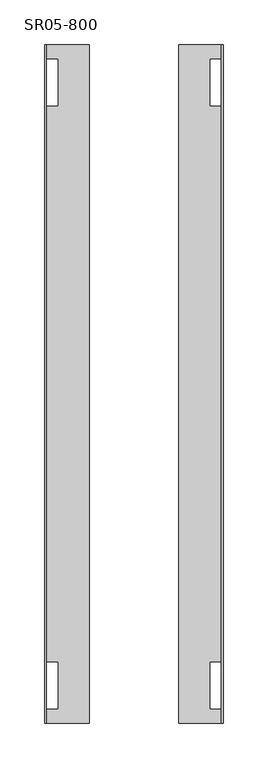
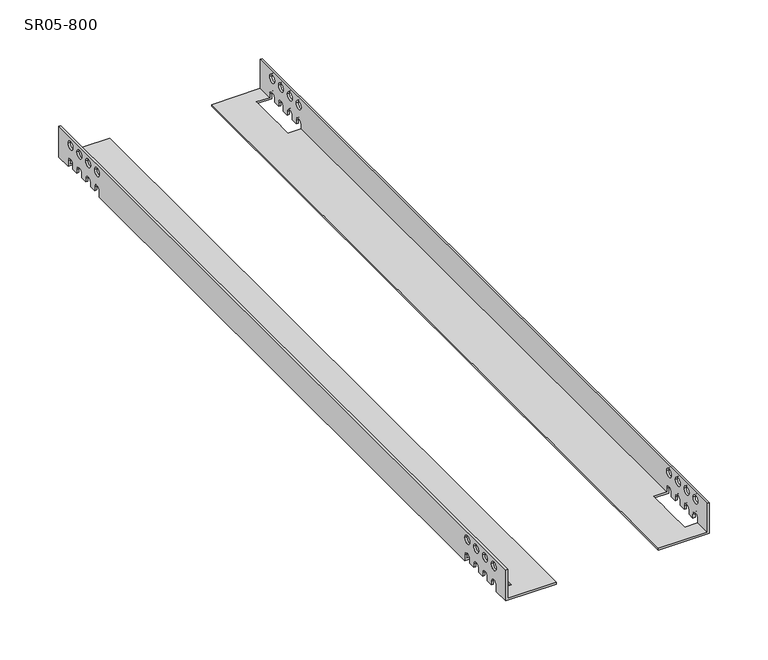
"""IFC4 building model written with IfcOpenShell, lengths in millimetres: proxy geometry, Уголки : SR05-800."""

from ifc_helpers import new_model, si_unit, frame, origin, place, context, project, spatial, polyline, circle_curve, source, transform, mapped, element, save
from ifc_brep_helpers import plane_surface, revolved_surface, advanced_brep


def sr05_800_6b87222d(model_context):
    return source(origin(), model_context, "Body", "AdvancedBrep", [
        advanced_brep(
        [(-98.0, -380.0, 32.0), (-100.0, -380.0, 32.0), (-100.0, -380.0, 0.0), (-50.0, -380.0, 0.0), (-50.0, -380.0, 2.0), (-98.0, -380.0, 2.0), (-98.0, 380.0, 32.0), (-98.0, 380.0, 2.0), (-50.0, 380.0, 2.0), (-50.0, 380.0, 0.0), (-100.0, 380.0, 0.0), (-100.0, 380.0, 32.0), (-100.0, 364.1733431, 0.0), (-100.0, 364.1733431, 5.925008), (-100.0, 355.8266569, 5.925008), (-100.0, 355.8266569, 2.0), (-100.0, 349.1733431, 2.0), (-100.0, 349.1733431, 5.925008), (-100.0, 340.8266569, 5.925008), (-100.0, 340.8266569, 2.0), (-100.0, 334.1733431, 2.0), (-100.0, 334.1733431, 5.925008), (-100.0, 325.8266569, 5.925008), (-100.0, 325.8266569, 2.0), (-100.0, 319.1733431, 2.0), (-100.0, 319.1733431, 5.925008), (-100.0, 310.8266569, 5.925008), (-100.0, 310.8266569, 0.0), (-100.0, -310.8266569, 0.0), (-100.0, -310.8266569, 5.925008), (-100.0, -319.1733431, 5.925008), (-100.0, -319.1733431, 2.0), (-100.0, -325.8266569, 2.0), (-100.0, -325.8266569, 5.925008), (-100.0, -334.1733431, 5.925008), (-100.0, -334.1733431, 2.0), (-100.0, -340.8266569, 2.0), (-100.0, -340.8266569, 5.925008), (-100.0, -349.1733431, 5.925008), (-100.0, -349.1733431, 2.0), (-100.0, -355.8266569, 2.0), (-100.0, -355.8266569, 5.925008), (-100.0, -364.1733431, 5.925008), (-100.0, -364.1733431, 0.0), (-100.0, -349.1733431, 24.0), (-100.0, -340.8266569, 24.0), (-100.0, -364.1733431, 24.0), (-100.0, -355.8266569, 24.0), (-100.0, -334.1733431, 24.0), (-100.0, -325.8266569, 24.0), (-100.0, -319.1733431, 24.0), (-100.0, -310.8266569, 24.0), (-100.0, 340.8266569, 24.0), (-100.0, 349.1733431, 24.0), (-100.0, 355.8266569, 24.0), (-100.0, 364.1733431, 24.0), (-100.0, 325.8266569, 24.0), (-100.0, 334.1733431, 24.0), (-100.0, 310.8266569, 24.0), (-100.0, 319.1733431, 24.0), (-85.0, -364.1733431, 0.0), (-85.0, -310.8266569, 0.0), (-85.0, 310.8266569, 0.0), (-85.0, 364.1733431, 0.0), (-98.0, 364.1733431, 2.0), (-85.0, 364.1733431, 2.0), (-85.0, 355.8266569, 2.0), (-85.0, 349.1733431, 2.0), (-85.0, 340.8266569, 2.0), (-85.0, 334.1733431, 2.0), (-85.0, 325.8266569, 2.0), (-85.0, 319.1733431, 2.0), (-85.0, 310.8266569, 2.0), (-98.0, 310.8266569, 2.0), (-98.0, -310.8266569, 2.0), (-85.0, -310.8266569, 2.0), (-85.0, -319.1733431, 2.0), (-85.0, -325.8266569, 2.0), (-85.0, -334.1733431, 2.0), (-85.0, -340.8266569, 2.0), (-85.0, -349.1733431, 2.0), (-85.0, -355.8266569, 2.0), (-85.0, -364.1733431, 2.0), (-98.0, -364.1733431, 2.0), (-98.0, -364.1733431, 5.925008), (-98.0, -355.8266569, 5.925008), (-98.0, -355.8266569, 2.0), (-98.0, -349.1733431, 2.0), (-98.0, -349.1733431, 5.925008), (-98.0, -340.8266569, 5.925008), (-98.0, -340.8266569, 2.0), (-98.0, -334.1733431, 2.0), (-98.0, -334.1733431, 5.925008), (-98.0, -325.8266569, 5.925008), (-98.0, -325.8266569, 2.0), (-98.0, -319.1733431, 2.0), (-98.0, -319.1733431, 5.925008), (-98.0, -310.8266569, 5.925008), (-98.0, 310.8266569, 5.925008), (-98.0, 319.1733431, 5.925008), (-98.0, 319.1733431, 2.0), (-98.0, 325.8266569, 2.0), (-98.0, 325.8266569, 5.925008), (-98.0, 334.1733431, 5.925008), (-98.0, 334.1733431, 2.0), (-98.0, 340.8266569, 2.0), (-98.0, 340.8266569, 5.925008), (-98.0, 349.1733431, 5.925008), (-98.0, 349.1733431, 2.0), (-98.0, 355.8266569, 2.0), (-98.0, 355.8266569, 5.925008), (-98.0, 364.1733431, 5.925008), (-98.0, -340.8266569, 24.0), (-98.0, -349.1733431, 24.0), (-98.0, -355.8266569, 24.0), (-98.0, -364.1733431, 24.0), (-98.0, -325.8266569, 24.0), (-98.0, -334.1733431, 24.0), (-98.0, -310.8266569, 24.0), (-98.0, -319.1733431, 24.0), (-98.0, 349.1733431, 24.0), (-98.0, 340.8266569, 24.0), (-98.0, 364.1733431, 24.0), (-98.0, 355.8266569, 24.0), (-98.0, 334.1733431, 24.0), (-98.0, 325.8266569, 24.0), (-98.0, 319.1733431, 24.0), (-98.0, 310.8266569, 24.0)],
        [
            (0, 1),
            (1, 2),
            (2, 3),
            (3, 4),
            (4, 5),
            (5, 0),
            (6, 7),
            (7, 8),
            (8, 9),
            (9, 10),
            (10, 11),
            (11, 6),
            (0, 6),
            (11, 1),
            (10, 12),
            (12, 13),
            (13, 14, circle_curve(frame((-100.0, 360.0, 5.925008), z_axis=(1.0, 0.0, 0.0), x_axis=(0.0, -1.0, 0.0)), 4.1733431)),
            (14, 15),
            (15, 16),
            (16, 17),
            (17, 18, circle_curve(frame((-100.0, 345.0, 5.925008), z_axis=(1.0, 0.0, 0.0), x_axis=(0.0, -1.0, 0.0)), 4.1733431)),
            (18, 19),
            (19, 20),
            (20, 21),
            (21, 22, circle_curve(frame((-100.0, 330.0, 5.925008), z_axis=(1.0, 0.0, 0.0), x_axis=(0.0, -1.0, 0.0)), 4.1733431)),
            (22, 23),
            (23, 24),
            (24, 25),
            (25, 26, circle_curve(frame((-100.0, 315.0, 5.925008), z_axis=(1.0, 0.0, 0.0), x_axis=(0.0, -1.0, 0.0)), 4.1733431)),
            (26, 27),
            (27, 28),
            (28, 29),
            (29, 30, circle_curve(frame((-100.0, -315.0, 5.925008), z_axis=(1.0, 0.0, 0.0), x_axis=(0.0, -1.0, 0.0)), 4.1733431)),
            (30, 31),
            (31, 32),
            (32, 33),
            (33, 34, circle_curve(frame((-100.0, -330.0, 5.925008), z_axis=(1.0, 0.0, 0.0), x_axis=(0.0, -1.0, 0.0)), 4.1733431)),
            (34, 35),
            (35, 36),
            (36, 37),
            (37, 38, circle_curve(frame((-100.0, -345.0, 5.925008), z_axis=(1.0, 0.0, 0.0), x_axis=(0.0, -1.0, 0.0)), 4.1733431)),
            (38, 39),
            (39, 40),
            (40, 41),
            (41, 42, circle_curve(frame((-100.0, -360.0, 5.925008), z_axis=(1.0, 0.0, 0.0), x_axis=(0.0, -1.0, 0.0)), 4.1733431)),
            (42, 43),
            (43, 2),
            (44, 45, circle_curve(frame((-100.0, -345.0, 24.0), z_axis=(1.0, 0.0, 0.0), x_axis=(0.0, -1.0, 0.0)), 4.1733431)),
            (45, 44, circle_curve(frame((-100.0, -345.0, 24.0), z_axis=(1.0, 0.0, 0.0), x_axis=(0.0, -1.0, 0.0)), 4.1733431)),
            (46, 47, circle_curve(frame((-100.0, -360.0, 24.0), z_axis=(1.0, 0.0, 0.0), x_axis=(0.0, -1.0, 0.0)), 4.1733431)),
            (47, 46, circle_curve(frame((-100.0, -360.0, 24.0), z_axis=(1.0, 0.0, 0.0), x_axis=(0.0, -1.0, 0.0)), 4.1733431)),
            (48, 49, circle_curve(frame((-100.0, -330.0, 24.0), z_axis=(1.0, 0.0, 0.0), x_axis=(0.0, -1.0, 0.0)), 4.1733431)),
            (49, 48, circle_curve(frame((-100.0, -330.0, 24.0), z_axis=(1.0, 0.0, 0.0), x_axis=(0.0, -1.0, 0.0)), 4.1733431)),
            (50, 51, circle_curve(frame((-100.0, -315.0, 24.0), z_axis=(1.0, 0.0, 0.0), x_axis=(0.0, -1.0, 0.0)), 4.1733431)),
            (51, 50, circle_curve(frame((-100.0, -315.0, 24.0), z_axis=(1.0, 0.0, 0.0), x_axis=(0.0, -1.0, 0.0)), 4.1733431)),
            (52, 53, circle_curve(frame((-100.0, 345.0, 24.0), z_axis=(1.0, 0.0, 0.0), x_axis=(0.0, -1.0, 0.0)), 4.1733431)),
            (53, 52, circle_curve(frame((-100.0, 345.0, 24.0), z_axis=(1.0, 0.0, 0.0), x_axis=(0.0, -1.0, 0.0)), 4.1733431)),
            (54, 55, circle_curve(frame((-100.0, 360.0, 24.0), z_axis=(1.0, 0.0, 0.0), x_axis=(0.0, -1.0, 0.0)), 4.1733431)),
            (55, 54, circle_curve(frame((-100.0, 360.0, 24.0), z_axis=(1.0, 0.0, 0.0), x_axis=(0.0, -1.0, 0.0)), 4.1733431)),
            (56, 57, circle_curve(frame((-100.0, 330.0, 24.0), z_axis=(1.0, 0.0, 0.0), x_axis=(0.0, -1.0, 0.0)), 4.1733431)),
            (57, 56, circle_curve(frame((-100.0, 330.0, 24.0), z_axis=(1.0, 0.0, 0.0), x_axis=(0.0, -1.0, 0.0)), 4.1733431)),
            (58, 59, circle_curve(frame((-100.0, 315.0, 24.0), z_axis=(1.0, 0.0, 0.0), x_axis=(0.0, -1.0, 0.0)), 4.1733431)),
            (59, 58, circle_curve(frame((-100.0, 315.0, 24.0), z_axis=(1.0, 0.0, 0.0), x_axis=(0.0, -1.0, 0.0)), 4.1733431)),
            (43, 60),
            (60, 61),
            (61, 28),
            (27, 62),
            (62, 63),
            (63, 12),
            (9, 3),
            (8, 4),
            (7, 64),
            (64, 65),
            (65, 66),
            (66, 67),
            (67, 68),
            (68, 69),
            (69, 70),
            (70, 71),
            (71, 72),
            (72, 73),
            (73, 74),
            (74, 75),
            (75, 76),
            (76, 77),
            (77, 78),
            (78, 79),
            (79, 80),
            (80, 81),
            (81, 82),
            (82, 83),
            (83, 5),
            (83, 84),
            (84, 85, circle_curve(frame((-98.0, -360.0, 5.925008), z_axis=(-1.0, 0.0, 0.0), x_axis=(0.0, -1.0, 0.0)), 4.1733431)),
            (85, 86),
            (86, 87),
            (87, 88),
            (88, 89, circle_curve(frame((-98.0, -345.0, 5.925008), z_axis=(-1.0, 0.0, 0.0), x_axis=(0.0, -1.0, 0.0)), 4.1733431)),
            (89, 90),
            (90, 91),
            (91, 92),
            (92, 93, circle_curve(frame((-98.0, -330.0, 5.925008), z_axis=(-1.0, 0.0, 0.0), x_axis=(0.0, -1.0, 0.0)), 4.1733431)),
            (93, 94),
            (94, 95),
            (95, 96),
            (96, 97, circle_curve(frame((-98.0, -315.0, 5.925008), z_axis=(-1.0, 0.0, 0.0), x_axis=(0.0, -1.0, 0.0)), 4.1733431)),
            (97, 74),
            (73, 98),
            (98, 99, circle_curve(frame((-98.0, 315.0, 5.925008), z_axis=(-1.0, 0.0, 0.0), x_axis=(0.0, -1.0, 0.0)), 4.1733431)),
            (99, 100),
            (100, 101),
            (101, 102),
            (102, 103, circle_curve(frame((-98.0, 330.0, 5.925008), z_axis=(-1.0, 0.0, 0.0), x_axis=(0.0, -1.0, 0.0)), 4.1733431)),
            (103, 104),
            (104, 105),
            (105, 106),
            (106, 107, circle_curve(frame((-98.0, 345.0, 5.925008), z_axis=(-1.0, 0.0, 0.0), x_axis=(0.0, -1.0, 0.0)), 4.1733431)),
            (107, 108),
            (108, 109),
            (109, 110),
            (110, 111, circle_curve(frame((-98.0, 360.0, 5.925008), z_axis=(-1.0, 0.0, 0.0), x_axis=(0.0, -1.0, 0.0)), 4.1733431)),
            (111, 64),
            (112, 113, circle_curve(frame((-98.0, -345.0, 24.0), z_axis=(-1.0, 0.0, 0.0), x_axis=(0.0, -1.0, 0.0)), 4.1733431)),
            (113, 112, circle_curve(frame((-98.0, -345.0, 24.0), z_axis=(-1.0, 0.0, 0.0), x_axis=(0.0, -1.0, 0.0)), 4.1733431)),
            (114, 115, circle_curve(frame((-98.0, -360.0, 24.0), z_axis=(-1.0, 0.0, 0.0), x_axis=(0.0, -1.0, 0.0)), 4.1733431)),
            (115, 114, circle_curve(frame((-98.0, -360.0, 24.0), z_axis=(-1.0, 0.0, 0.0), x_axis=(0.0, -1.0, 0.0)), 4.1733431)),
            (116, 117, circle_curve(frame((-98.0, -330.0, 24.0), z_axis=(-1.0, 0.0, 0.0), x_axis=(0.0, -1.0, 0.0)), 4.1733431)),
            (117, 116, circle_curve(frame((-98.0, -330.0, 24.0), z_axis=(-1.0, 0.0, 0.0), x_axis=(0.0, -1.0, 0.0)), 4.1733431)),
            (118, 119, circle_curve(frame((-98.0, -315.0, 24.0), z_axis=(-1.0, 0.0, 0.0), x_axis=(0.0, -1.0, 0.0)), 4.1733431)),
            (119, 118, circle_curve(frame((-98.0, -315.0, 24.0), z_axis=(-1.0, 0.0, 0.0), x_axis=(0.0, -1.0, 0.0)), 4.1733431)),
            (120, 121, circle_curve(frame((-98.0, 345.0, 24.0), z_axis=(-1.0, 0.0, 0.0), x_axis=(0.0, -1.0, 0.0)), 4.1733431)),
            (121, 120, circle_curve(frame((-98.0, 345.0, 24.0), z_axis=(-1.0, 0.0, 0.0), x_axis=(0.0, -1.0, 0.0)), 4.1733431)),
            (122, 123, circle_curve(frame((-98.0, 360.0, 24.0), z_axis=(-1.0, 0.0, 0.0), x_axis=(0.0, -1.0, 0.0)), 4.1733431)),
            (123, 122, circle_curve(frame((-98.0, 360.0, 24.0), z_axis=(-1.0, 0.0, 0.0), x_axis=(0.0, -1.0, 0.0)), 4.1733431)),
            (124, 125, circle_curve(frame((-98.0, 330.0, 24.0), z_axis=(-1.0, 0.0, 0.0), x_axis=(0.0, -1.0, 0.0)), 4.1733431)),
            (125, 124, circle_curve(frame((-98.0, 330.0, 24.0), z_axis=(-1.0, 0.0, 0.0), x_axis=(0.0, -1.0, 0.0)), 4.1733431)),
            (126, 127, circle_curve(frame((-98.0, 315.0, 24.0), z_axis=(-1.0, 0.0, 0.0), x_axis=(0.0, -1.0, 0.0)), 4.1733431)),
            (127, 126, circle_curve(frame((-98.0, 315.0, 24.0), z_axis=(-1.0, 0.0, 0.0), x_axis=(0.0, -1.0, 0.0)), 4.1733431)),
            (75, 61),
            (60, 82),
            (65, 63),
            (62, 72),
            (112, 45),
            (44, 113),
            (114, 47),
            (46, 115),
            (116, 49),
            (48, 117),
            (118, 51),
            (50, 119),
            (120, 53),
            (52, 121),
            (122, 55),
            (54, 123),
            (124, 57),
            (56, 125),
            (126, 59),
            (58, 127),
            (95, 31),
            (30, 96),
            (29, 97),
            (91, 35),
            (34, 92),
            (33, 93),
            (32, 94),
            (87, 39),
            (38, 88),
            (37, 89),
            (36, 90),
            (42, 84),
            (41, 85),
            (40, 86),
            (23, 101),
            (100, 24),
            (22, 102),
            (21, 103),
            (20, 104),
            (19, 105),
            (18, 106),
            (17, 107),
            (16, 108),
            (15, 109),
            (14, 110),
            (13, 111),
            (26, 98),
            (25, 99),
        ],
        [
            plane_surface(frame((-100.0, -380.0, 32.0), z_axis=(0.0, -1.0, 0.0), x_axis=(-1.0, 0.0, 0.0))),
            plane_surface(frame((-100.0, 380.0, 32.0), z_axis=(0.0, 1.0, 0.0), x_axis=(1.0, 0.0, 0.0))),
            plane_surface(frame((-98.0, -380.0, 32.0), z_axis=(0.0, 0.0, 1.0), x_axis=(0.0, 1.0, 0.0))),
            plane_surface(frame((-100.0, -380.0, 32.0), z_axis=(-1.0, 0.0, 0.0), x_axis=(0.0, 1.0, 0.0))),
            plane_surface(frame((-100.0, -380.0, 0.0), z_axis=(0.0, 0.0, -1.0), x_axis=(0.0, 1.0, 0.0))),
            plane_surface(frame((-50.0, -380.0, 0.0), z_axis=(1.0, 0.0, 0.0), x_axis=(0.0, 1.0, 0.0))),
            plane_surface(frame((-50.0, -380.0, 2.0), z_axis=(0.0, 0.0, 1.0), x_axis=(0.0, 1.0, 0.0))),
            plane_surface(frame((-98.0, -380.0, 2.0), z_axis=(1.0, 0.0, 0.0), x_axis=(0.0, 1.0, 0.0))),
            plane_surface(frame((-85.0, -349.1733431, 24.0), z_axis=(-1.0, 0.0, 0.0), x_axis=(0.0, 0.0, -1.0))),
            revolved_surface(polyline([(-100.0, -349.1733431, 24.0), (-98.0, -349.1733431, 24.0)]), (-85.0, -345.0, 24.0), (-1.0, 0.0, 0.0)),
            revolved_surface(polyline([(-100.0, -364.1733431, 24.0), (-98.0, -364.1733431, 24.0)]), (-100.0, -360.0, 24.0), (-1.0, 0.0, 0.0)),
            revolved_surface(polyline([(-100.0, -334.1733431, 24.0), (-98.0, -334.1733431, 24.0)]), (-100.0, -330.0, 24.0), (-1.0, 0.0, 0.0)),
            revolved_surface(polyline([(-100.0, -319.1733431, 24.0), (-98.0, -319.1733431, 24.0)]), (-100.0, -315.0, 24.0), (-1.0, 0.0, 0.0)),
            revolved_surface(polyline([(-100.0, 340.8266569, 24.0), (-98.0, 340.8266569, 24.0)]), (-100.0, 345.0, 24.0), (-1.0, 0.0, 0.0)),
            revolved_surface(polyline([(-100.0, 355.8266569, 24.0), (-98.0, 355.8266569, 24.0)]), (-100.0, 360.0, 24.0), (-1.0, 0.0, 0.0)),
            revolved_surface(polyline([(-100.0, 325.8266569, 24.0), (-98.0, 325.8266569, 24.0)]), (-100.0, 330.0, 24.0), (-1.0, 0.0, 0.0)),
            revolved_surface(polyline([(-100.0, 310.8266569, 24.0), (-98.0, 310.8266569, 24.0)]), (-100.0, 315.0, 24.0), (-1.0, 0.0, 0.0)),
            plane_surface(frame((-100.0, -319.1733431, 2.0), z_axis=(0.0, 1.0, 0.0), x_axis=(1.0, 0.0, 0.0))),
            revolved_surface(polyline([(-100.0, -319.1733431, 5.925008), (-98.0, -319.1733431, 5.925008)]), (-100.0, -315.0, 5.925008), (-1.0, 0.0, 0.0)),
            plane_surface(frame((-100.0, -310.8266569, 5.925008), z_axis=(0.0, -1.0, 0.0), x_axis=(1.0, 0.0, 0.0))),
            plane_surface(frame((-100.0, -334.1733431, 2.0), z_axis=(0.0, 1.0, 0.0), x_axis=(1.0, 0.0, 0.0))),
            revolved_surface(polyline([(-100.0, -334.1733431, 5.925008), (-98.0, -334.1733431, 5.925008)]), (-100.0, -330.0, 5.925008), (-1.0, 0.0, 0.0)),
            plane_surface(frame((-100.0, -325.8266569, 5.925008), z_axis=(0.0, -1.0, 0.0), x_axis=(1.0, 0.0, 0.0))),
            plane_surface(frame((-100.0, -325.8266569, 2.0), z_axis=(0.0, 0.0, -1.0), x_axis=(1.0, 0.0, 0.0))),
            plane_surface(frame((-100.0, -349.1733431, 2.0), z_axis=(0.0, 1.0, 8.742237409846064e-12), x_axis=(1.0, 0.0, 0.0))),
            revolved_surface(polyline([(-100.0, -349.1733431, 5.925008), (-98.0, -349.1733431, 5.925008)]), (-100.0, -345.0, 5.925008), (-1.0, 0.0, 0.0)),
            plane_surface(frame((-100.0, -340.8266569, 5.925008), z_axis=(0.0, -1.0, 0.0), x_axis=(1.0, 0.0, 0.0))),
            plane_surface(frame((-100.0, -340.8266569, 2.0), z_axis=(0.0, 0.0, -1.0), x_axis=(1.0, 0.0, 0.0))),
            plane_surface(frame((-100.0, -364.1733431, 0.0), z_axis=(0.0, 1.0, 0.0), x_axis=(1.0, 0.0, 0.0))),
            revolved_surface(polyline([(-100.0, -364.1733431, 5.925008), (-98.0, -364.1733431, 5.925008)]), (-100.0, -360.0, 5.925008), (-1.0, 0.0, 0.0)),
            plane_surface(frame((-100.0, -355.8266569, 5.925008), z_axis=(0.0, -1.0, 0.0), x_axis=(1.0, 0.0, 0.0))),
            plane_surface(frame((-100.0, -355.8266569, 2.0), z_axis=(0.0, 0.0, -1.0), x_axis=(1.0, 0.0, 0.0))),
            plane_surface(frame((-100.0, 319.1733431, 2.0), z_axis=(0.0, 0.0, -1.0), x_axis=(1.0, 0.0, 0.0))),
            plane_surface(frame((-100.0, 325.8266569, 2.0), z_axis=(0.0, 1.0, 0.0), x_axis=(1.0, 0.0, 0.0))),
            revolved_surface(polyline([(-100.0, 325.8266569, 5.925008), (-98.0, 325.8266569, 5.925008)]), (-100.0, 330.0, 5.925008), (-1.0, 0.0, 0.0)),
            plane_surface(frame((-100.0, 334.1733431, 5.925008), z_axis=(0.0, -1.0, 0.0), x_axis=(1.0, 0.0, 0.0))),
            plane_surface(frame((-100.0, 334.1733431, 2.0), z_axis=(0.0, 0.0, -1.0), x_axis=(1.0, 0.0, 0.0))),
            plane_surface(frame((-100.0, 340.8266569, 2.0), z_axis=(0.0, 1.0, 0.0), x_axis=(1.0, 0.0, 0.0))),
            revolved_surface(polyline([(-100.0, 340.8266569, 5.925008), (-98.0, 340.8266569, 5.925008)]), (-100.0, 345.0, 5.925008), (-1.0, 0.0, 0.0)),
            plane_surface(frame((-100.0, 349.1733431, 5.925008), z_axis=(0.0, -1.0, -4.241795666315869e-12), x_axis=(1.0, 0.0, 0.0))),
            plane_surface(frame((-100.0, 349.1733431, 2.0), z_axis=(0.0, 0.0, -1.0), x_axis=(1.0, 0.0, 0.0))),
            plane_surface(frame((-100.0, 355.8266569, 2.0), z_axis=(0.0, 1.0, 0.0), x_axis=(1.0, 0.0, 0.0))),
            revolved_surface(polyline([(-100.0, 355.8266569, 5.925008), (-98.0, 355.8266569, 5.925008)]), (-100.0, 360.0, 5.925008), (-1.0, 0.0, 0.0)),
            plane_surface(frame((-100.0, 364.1733431, 5.925008), z_axis=(0.0, -1.0, 0.0), x_axis=(1.0, 0.0, 0.0))),
            plane_surface(frame((-100.0, 310.8266569, 0.0), z_axis=(0.0, 1.0, 0.0), x_axis=(1.0, 0.0, 0.0))),
            revolved_surface(polyline([(-100.0, 310.8266569, 5.925008), (-98.0, 310.8266569, 5.925008)]), (-100.0, 315.0, 5.925008), (-1.0, 0.0, 0.0)),
            plane_surface(frame((-100.0, 319.1733431, 5.925008), z_axis=(0.0, -1.0, 0.0), x_axis=(1.0, 0.0, 0.0))),
        ],
        [
            (0, [[1, 2, 3, 4, 5, 6]]),
            (1, [[7, 8, 9, 10, 11, 12]]),
            (2, [[-1, 13, -12, 14]]),
            (3, [[-2, -14, -11, 15, 16, 17, 18, 19, 20, 21, 22, 23, 24, 25, 26, 27, 28, 29, 30, 31, 32, 33, 34, 35, 36, 37, 38, 39, 40, 41, 42, 43, 44, 45, 46, 47], [48, 49], [50, 51], [52, 53], [54, 55], [56, 57], [58, 59], [60, 61], [62, 63]]),
            (4, [[-3, -47, 64, 65, 66, -31, 67, 68, 69, -15, -10, 70]]),
            (5, [[-4, -70, -9, 71]]),
            (6, [[-5, -71, -8, 72, 73, 74, 75, 76, 77, 78, 79, 80, 81, 82, 83, 84, 85, 86, 87, 88, 89, 90, 91, 92]]),
            (7, [[-6, -92, 93, 94, 95, 96, 97, 98, 99, 100, 101, 102, 103, 104, 105, 106, 107, -82, 108, 109, 110, 111, 112, 113, 114, 115, 116, 117, 118, 119, 120, 121, 122, -72, -7, -13], [123, 124], [125, 126], [127, 128], [129, 130], [131, 132], [133, 134], [135, 136], [137, 138]]),
            (8, [[139, -65, 140, -90, -89, -88, -87, -86, -85, -84]]),
            (8, [[141, -68, 142, -80, -79, -78, -77, -76, -75, -74]]),
            (9, [[143, -48, 144, -123]]),
            (9, [[-143, -124, -144, -49]]),
            (10, [[145, -50, 146, -125]]),
            (10, [[-145, -126, -146, -51]]),
            (11, [[147, -52, 148, -127]]),
            (11, [[-147, -128, -148, -53]]),
            (12, [[149, -54, 150, -129]]),
            (12, [[-149, -130, -150, -55]]),
            (13, [[151, -56, 152, -131]]),
            (13, [[-151, -132, -152, -57]]),
            (14, [[153, -58, 154, -133]]),
            (14, [[-153, -134, -154, -59]]),
            (15, [[155, -60, 156, -135]]),
            (15, [[-155, -136, -156, -61]]),
            (16, [[157, -62, 158, -137]]),
            (16, [[-157, -138, -158, -63]]),
            (17, [[159, -34, 160, -105]]),
            (18, [[-160, -33, 161, -106]]),
            (19, [[-139, -83, -107, -161, -32, -66]]),
            (20, [[162, -38, 163, -101]]),
            (21, [[-163, -37, 164, -102]]),
            (22, [[165, -103, -164, -36]]),
            (23, [[-159, -104, -165, -35]]),
            (24, [[166, -42, 167, -97]]),
            (25, [[-167, -41, 168, -98]]),
            (26, [[169, -99, -168, -40]]),
            (27, [[-162, -100, -169, -39]]),
            (28, [[-140, -64, -46, 170, -93, -91]]),
            (29, [[-170, -45, 171, -94]]),
            (30, [[172, -95, -171, -44]]),
            (31, [[-166, -96, -172, -43]]),
            (32, [[173, -111, 174, -27]]),
            (33, [[-173, -26, 175, -112]]),
            (34, [[-175, -25, 176, -113]]),
            (35, [[177, -114, -176, -24]]),
            (36, [[-177, -23, 178, -115]]),
            (37, [[-178, -22, 179, -116]]),
            (38, [[-179, -21, 180, -117]]),
            (39, [[181, -118, -180, -20]]),
            (40, [[-181, -19, 182, -119]]),
            (41, [[-182, -18, 183, -120]]),
            (42, [[-183, -17, 184, -121]]),
            (43, [[-141, -73, -122, -184, -16, -69]]),
            (44, [[-142, -67, -30, 185, -108, -81]]),
            (45, [[-185, -29, 186, -109]]),
            (46, [[-174, -110, -186, -28]]),
        ],
    ),
        advanced_brep(
        [(98.0, -380.0, 32.0), (98.0, -380.0, 2.0), (50.0, -380.0, 2.0), (50.0, -380.0, 0.0), (100.0, -380.0, 0.0), (100.0, -380.0, 32.0), (98.0, 380.0, 32.0), (100.0, 380.0, 32.0), (100.0, 380.0, 0.0), (50.0, 380.0, 0.0), (50.0, 380.0, 2.0), (98.0, 380.0, 2.0), (98.0, 364.1733431, 2.0), (98.0, 364.1733431, 5.925008), (98.0, 355.8266569, 5.925008), (98.0, 355.8266569, 2.0), (98.0, 349.1733431, 2.0), (98.0, 349.1733431, 5.925008), (98.0, 340.8266569, 5.925008), (98.0, 340.8266569, 2.0), (98.0, 334.1733431, 2.0), (98.0, 334.1733431, 5.925008), (98.0, 325.8266569, 5.925008), (98.0, 325.8266569, 2.0), (98.0, 319.1733431, 2.0), (98.0, 319.1733431, 5.925008), (98.0, 310.8266569, 5.925008), (98.0, 310.8266569, 2.0), (98.0, -310.8266569, 2.0), (98.0, -310.8266569, 5.925008), (98.0, -319.1733431, 5.925008), (98.0, -319.1733431, 2.0), (98.0, -325.8266569, 2.0), (98.0, -325.8266569, 5.925008), (98.0, -334.1733431, 5.925008), (98.0, -334.1733431, 2.0), (98.0, -340.8266569, 2.0), (98.0, -340.8266569, 5.925008), (98.0, -349.1733431, 5.925008), (98.0, -349.1733431, 2.0), (98.0, -355.8266569, 2.0), (98.0, -355.8266569, 5.925008), (98.0, -364.1733431, 5.925008), (98.0, -364.1733431, 2.0), (98.0, -349.1733431, 24.0), (98.0, -340.8266569, 24.0), (98.0, -364.1733431, 24.0), (98.0, -355.8266569, 24.0), (98.0, -334.1733431, 24.0), (98.0, -325.8266569, 24.0), (98.0, -319.1733431, 24.0), (98.0, -310.8266569, 24.0), (98.0, 340.8266569, 24.0), (98.0, 349.1733431, 24.0), (98.0, 355.8266569, 24.0), (98.0, 364.1733431, 24.0), (98.0, 325.8266569, 24.0), (98.0, 334.1733431, 24.0), (98.0, 310.8266569, 24.0), (98.0, 319.1733431, 24.0), (85.0, -364.1733431, 2.0), (85.0, -355.8266569, 2.0), (85.0, -349.1733431, 2.0), (85.0, -340.8266569, 2.0), (85.0, -334.1733431, 2.0), (85.0, -325.8266569, 2.0), (85.0, -319.1733431, 2.0), (85.0, -310.8266569, 2.0), (85.0, 310.8266569, 2.0), (85.0, 319.1733431, 2.0), (85.0, 325.8266569, 2.0), (85.0, 334.1733431, 2.0), (85.0, 340.8266569, 2.0), (85.0, 349.1733431, 2.0), (85.0, 355.8266569, 2.0), (85.0, 364.1733431, 2.0), (100.0, 364.1733431, 0.0), (85.0, 364.1733431, 0.0), (85.0, 310.8266569, 0.0), (100.0, 310.8266569, 0.0), (100.0, -310.8266569, 0.0), (85.0, -310.8266569, 0.0), (85.0, -364.1733431, 0.0), (100.0, -364.1733431, 0.0), (100.0, -364.1733431, 5.925008), (100.0, -355.8266569, 5.925008), (100.0, -355.8266569, 2.0), (100.0, -349.1733431, 2.0), (100.0, -349.1733431, 5.925008), (100.0, -340.8266569, 5.925008), (100.0, -340.8266569, 2.0), (100.0, -334.1733431, 2.0), (100.0, -334.1733431, 5.925008), (100.0, -325.8266569, 5.925008), (100.0, -325.8266569, 2.0), (100.0, -319.1733431, 2.0), (100.0, -319.1733431, 5.925008), (100.0, -310.8266569, 5.925008), (100.0, 310.8266569, 5.925008), (100.0, 319.1733431, 5.925008), (100.0, 319.1733431, 2.0), (100.0, 325.8266569, 2.0), (100.0, 325.8266569, 5.925008), (100.0, 334.1733431, 5.925008), (100.0, 334.1733431, 2.0), (100.0, 340.8266569, 2.0), (100.0, 340.8266569, 5.925008), (100.0, 349.1733431, 5.925008), (100.0, 349.1733431, 2.0), (100.0, 355.8266569, 2.0), (100.0, 355.8266569, 5.925008), (100.0, 364.1733431, 5.925008), (100.0, -340.8266569, 24.0), (100.0, -349.1733431, 24.0), (100.0, -355.8266569, 24.0), (100.0, -364.1733431, 24.0), (100.0, -325.8266569, 24.0), (100.0, -334.1733431, 24.0), (100.0, -310.8266569, 24.0), (100.0, -319.1733431, 24.0), (100.0, 349.1733431, 24.0), (100.0, 340.8266569, 24.0), (100.0, 364.1733431, 24.0), (100.0, 355.8266569, 24.0), (100.0, 334.1733431, 24.0), (100.0, 325.8266569, 24.0), (100.0, 319.1733431, 24.0), (100.0, 310.8266569, 24.0)],
        [
            (0, 1),
            (1, 2),
            (2, 3),
            (3, 4),
            (4, 5),
            (5, 0),
            (6, 7),
            (7, 8),
            (8, 9),
            (9, 10),
            (10, 11),
            (11, 6),
            (0, 6),
            (11, 12),
            (12, 13),
            (13, 14, circle_curve(frame((98.0, 360.0, 5.925008), z_axis=(1.0, 0.0, 0.0), x_axis=(0.0, -1.0, 0.0)), 4.1733431)),
            (14, 15),
            (15, 16),
            (16, 17),
            (17, 18, circle_curve(frame((98.0, 345.0, 5.925008), z_axis=(1.0, 0.0, 0.0), x_axis=(0.0, -1.0, 0.0)), 4.1733431)),
            (18, 19),
            (19, 20),
            (20, 21),
            (21, 22, circle_curve(frame((98.0, 330.0, 5.925008), z_axis=(1.0, 0.0, 0.0), x_axis=(0.0, -1.0, 0.0)), 4.1733431)),
            (22, 23),
            (23, 24),
            (24, 25),
            (25, 26, circle_curve(frame((98.0, 315.0, 5.925008), z_axis=(1.0, 0.0, 0.0), x_axis=(0.0, -1.0, 0.0)), 4.1733431)),
            (26, 27),
            (27, 28),
            (28, 29),
            (29, 30, circle_curve(frame((98.0, -315.0, 5.925008), z_axis=(1.0, 0.0, 0.0), x_axis=(0.0, -1.0, 0.0)), 4.1733431)),
            (30, 31),
            (31, 32),
            (32, 33),
            (33, 34, circle_curve(frame((98.0, -330.0, 5.925008), z_axis=(1.0, 0.0, 0.0), x_axis=(0.0, -1.0, 0.0)), 4.1733431)),
            (34, 35),
            (35, 36),
            (36, 37),
            (37, 38, circle_curve(frame((98.0, -345.0, 5.925008), z_axis=(1.0, 0.0, 0.0), x_axis=(0.0, -1.0, 0.0)), 4.1733431)),
            (38, 39),
            (39, 40),
            (40, 41),
            (41, 42, circle_curve(frame((98.0, -360.0, 5.925008), z_axis=(1.0, 0.0, 0.0), x_axis=(0.0, -1.0, 0.0)), 4.1733431)),
            (42, 43),
            (43, 1),
            (44, 45, circle_curve(frame((98.0, -345.0, 24.0), z_axis=(1.0, 0.0, 0.0), x_axis=(0.0, -1.0, 0.0)), 4.1733431)),
            (45, 44, circle_curve(frame((98.0, -345.0, 24.0), z_axis=(1.0, 0.0, 0.0), x_axis=(0.0, -1.0, 0.0)), 4.1733431)),
            (46, 47, circle_curve(frame((98.0, -360.0, 24.0), z_axis=(1.0, 0.0, 0.0), x_axis=(0.0, -1.0, 0.0)), 4.1733431)),
            (47, 46, circle_curve(frame((98.0, -360.0, 24.0), z_axis=(1.0, 0.0, 0.0), x_axis=(0.0, -1.0, 0.0)), 4.1733431)),
            (48, 49, circle_curve(frame((98.0, -330.0, 24.0), z_axis=(1.0, 0.0, 0.0), x_axis=(0.0, -1.0, 0.0)), 4.1733431)),
            (49, 48, circle_curve(frame((98.0, -330.0, 24.0), z_axis=(1.0, 0.0, 0.0), x_axis=(0.0, -1.0, 0.0)), 4.1733431)),
            (50, 51, circle_curve(frame((98.0, -315.0, 24.0), z_axis=(1.0, 0.0, 0.0), x_axis=(0.0, -1.0, 0.0)), 4.1733431)),
            (51, 50, circle_curve(frame((98.0, -315.0, 24.0), z_axis=(1.0, 0.0, 0.0), x_axis=(0.0, -1.0, 0.0)), 4.1733431)),
            (52, 53, circle_curve(frame((98.0, 345.0, 24.0), z_axis=(1.0, 0.0, 0.0), x_axis=(0.0, -1.0, 0.0)), 4.1733431)),
            (53, 52, circle_curve(frame((98.0, 345.0, 24.0), z_axis=(1.0, 0.0, 0.0), x_axis=(0.0, -1.0, 0.0)), 4.1733431)),
            (54, 55, circle_curve(frame((98.0, 360.0, 24.0), z_axis=(1.0, 0.0, 0.0), x_axis=(0.0, -1.0, 0.0)), 4.1733431)),
            (55, 54, circle_curve(frame((98.0, 360.0, 24.0), z_axis=(1.0, 0.0, 0.0), x_axis=(0.0, -1.0, 0.0)), 4.1733431)),
            (56, 57, circle_curve(frame((98.0, 330.0, 24.0), z_axis=(1.0, 0.0, 0.0), x_axis=(0.0, -1.0, 0.0)), 4.1733431)),
            (57, 56, circle_curve(frame((98.0, 330.0, 24.0), z_axis=(1.0, 0.0, 0.0), x_axis=(0.0, -1.0, 0.0)), 4.1733431)),
            (58, 59, circle_curve(frame((98.0, 315.0, 24.0), z_axis=(1.0, 0.0, 0.0), x_axis=(0.0, -1.0, 0.0)), 4.1733431)),
            (59, 58, circle_curve(frame((98.0, 315.0, 24.0), z_axis=(1.0, 0.0, 0.0), x_axis=(0.0, -1.0, 0.0)), 4.1733431)),
            (43, 60),
            (60, 61),
            (61, 62),
            (62, 63),
            (63, 64),
            (64, 65),
            (65, 66),
            (66, 67),
            (67, 28),
            (27, 68),
            (68, 69),
            (69, 70),
            (70, 71),
            (71, 72),
            (72, 73),
            (73, 74),
            (74, 75),
            (75, 12),
            (10, 2),
            (9, 3),
            (8, 76),
            (76, 77),
            (77, 78),
            (78, 79),
            (79, 80),
            (80, 81),
            (81, 82),
            (82, 83),
            (83, 4),
            (83, 84),
            (84, 85, circle_curve(frame((100.0, -360.0, 5.925008), z_axis=(-1.0, 0.0, 0.0), x_axis=(0.0, -1.0, 0.0)), 4.1733431)),
            (85, 86),
            (86, 87),
            (87, 88),
            (88, 89, circle_curve(frame((100.0, -345.0, 5.925008), z_axis=(-1.0, 0.0, 0.0), x_axis=(0.0, -1.0, 0.0)), 4.1733431)),
            (89, 90),
            (90, 91),
            (91, 92),
            (92, 93, circle_curve(frame((100.0, -330.0, 5.925008), z_axis=(-1.0, 0.0, 0.0), x_axis=(0.0, -1.0, 0.0)), 4.1733431)),
            (93, 94),
            (94, 95),
            (95, 96),
            (96, 97, circle_curve(frame((100.0, -315.0, 5.925008), z_axis=(-1.0, 0.0, 0.0), x_axis=(0.0, -1.0, 0.0)), 4.1733431)),
            (97, 80),
            (79, 98),
            (98, 99, circle_curve(frame((100.0, 315.0, 5.925008), z_axis=(-1.0, 0.0, 0.0), x_axis=(0.0, -1.0, 0.0)), 4.1733431)),
            (99, 100),
            (100, 101),
            (101, 102),
            (102, 103, circle_curve(frame((100.0, 330.0, 5.925008), z_axis=(-1.0, 0.0, 0.0), x_axis=(0.0, -1.0, 0.0)), 4.1733431)),
            (103, 104),
            (104, 105),
            (105, 106),
            (106, 107, circle_curve(frame((100.0, 345.0, 5.925008), z_axis=(-1.0, 0.0, 0.0), x_axis=(0.0, -1.0, 0.0)), 4.1733431)),
            (107, 108),
            (108, 109),
            (109, 110),
            (110, 111, circle_curve(frame((100.0, 360.0, 5.925008), z_axis=(-1.0, 0.0, 0.0), x_axis=(0.0, -1.0, 0.0)), 4.1733431)),
            (111, 76),
            (7, 5),
            (112, 113, circle_curve(frame((100.0, -345.0, 24.0), z_axis=(-1.0, 0.0, 0.0), x_axis=(0.0, -1.0, 0.0)), 4.1733431)),
            (113, 112, circle_curve(frame((100.0, -345.0, 24.0), z_axis=(-1.0, 0.0, 0.0), x_axis=(0.0, -1.0, 0.0)), 4.1733431)),
            (114, 115, circle_curve(frame((100.0, -360.0, 24.0), z_axis=(-1.0, 0.0, 0.0), x_axis=(0.0, -1.0, 0.0)), 4.1733431)),
            (115, 114, circle_curve(frame((100.0, -360.0, 24.0), z_axis=(-1.0, 0.0, 0.0), x_axis=(0.0, -1.0, 0.0)), 4.1733431)),
            (116, 117, circle_curve(frame((100.0, -330.0, 24.0), z_axis=(-1.0, 0.0, 0.0), x_axis=(0.0, -1.0, 0.0)), 4.1733431)),
            (117, 116, circle_curve(frame((100.0, -330.0, 24.0), z_axis=(-1.0, 0.0, 0.0), x_axis=(0.0, -1.0, 0.0)), 4.1733431)),
            (118, 119, circle_curve(frame((100.0, -315.0, 24.0), z_axis=(-1.0, 0.0, 0.0), x_axis=(0.0, -1.0, 0.0)), 4.1733431)),
            (119, 118, circle_curve(frame((100.0, -315.0, 24.0), z_axis=(-1.0, 0.0, 0.0), x_axis=(0.0, -1.0, 0.0)), 4.1733431)),
            (120, 121, circle_curve(frame((100.0, 345.0, 24.0), z_axis=(-1.0, 0.0, 0.0), x_axis=(0.0, -1.0, 0.0)), 4.1733431)),
            (121, 120, circle_curve(frame((100.0, 345.0, 24.0), z_axis=(-1.0, 0.0, 0.0), x_axis=(0.0, -1.0, 0.0)), 4.1733431)),
            (122, 123, circle_curve(frame((100.0, 360.0, 24.0), z_axis=(-1.0, 0.0, 0.0), x_axis=(0.0, -1.0, 0.0)), 4.1733431)),
            (123, 122, circle_curve(frame((100.0, 360.0, 24.0), z_axis=(-1.0, 0.0, 0.0), x_axis=(0.0, -1.0, 0.0)), 4.1733431)),
            (124, 125, circle_curve(frame((100.0, 330.0, 24.0), z_axis=(-1.0, 0.0, 0.0), x_axis=(0.0, -1.0, 0.0)), 4.1733431)),
            (125, 124, circle_curve(frame((100.0, 330.0, 24.0), z_axis=(-1.0, 0.0, 0.0), x_axis=(0.0, -1.0, 0.0)), 4.1733431)),
            (126, 127, circle_curve(frame((100.0, 315.0, 24.0), z_axis=(-1.0, 0.0, 0.0), x_axis=(0.0, -1.0, 0.0)), 4.1733431)),
            (127, 126, circle_curve(frame((100.0, 315.0, 24.0), z_axis=(-1.0, 0.0, 0.0), x_axis=(0.0, -1.0, 0.0)), 4.1733431)),
            (68, 78),
            (77, 75),
            (60, 82),
            (81, 67),
            (44, 113),
            (112, 45),
            (46, 115),
            (114, 47),
            (48, 117),
            (116, 49),
            (50, 119),
            (118, 51),
            (52, 121),
            (120, 53),
            (54, 123),
            (122, 55),
            (56, 125),
            (124, 57),
            (58, 127),
            (126, 59),
            (95, 31),
            (30, 96),
            (29, 97),
            (91, 35),
            (34, 92),
            (33, 93),
            (32, 94),
            (87, 39),
            (38, 88),
            (37, 89),
            (36, 90),
            (42, 84),
            (41, 85),
            (40, 86),
            (23, 101),
            (100, 24),
            (22, 102),
            (21, 103),
            (20, 104),
            (19, 105),
            (18, 106),
            (17, 107),
            (16, 108),
            (15, 109),
            (14, 110),
            (13, 111),
            (26, 98),
            (25, 99),
        ],
        [
            plane_surface(frame((-100.0, -380.0, 32.0), z_axis=(0.0, -1.0, 0.0), x_axis=(-1.0, 0.0, 0.0))),
            plane_surface(frame((-100.0, 380.0, 32.0), z_axis=(0.0, 1.0, 0.0), x_axis=(1.0, 0.0, 0.0))),
            plane_surface(frame((98.0, -380.0, 32.0), z_axis=(-1.0, 0.0, 0.0), x_axis=(0.0, 1.0, 0.0))),
            plane_surface(frame((98.0, -380.0, 2.0), z_axis=(0.0, 0.0, 1.0), x_axis=(0.0, 1.0, 0.0))),
            plane_surface(frame((50.0, -380.0, 2.0), z_axis=(-1.0, 0.0, 0.0), x_axis=(0.0, 1.0, 0.0))),
            plane_surface(frame((50.0, -380.0, 0.0), z_axis=(0.0, 0.0, -1.0), x_axis=(0.0, 1.0, 0.0))),
            plane_surface(frame((100.0, -380.0, 0.0), z_axis=(1.0, 0.0, 0.0), x_axis=(0.0, 1.0, 0.0))),
            plane_surface(frame((100.0, -380.0, 32.0), z_axis=(0.0, 0.0, 1.0), x_axis=(0.0, 1.0, 0.0))),
            plane_surface(frame((85.0, -349.1733431, 24.0), z_axis=(1.0, 0.0, 0.0), x_axis=(0.0, 0.0, 1.0))),
            revolved_surface(polyline([(100.0, -349.1733431, 24.0), (98.0, -349.1733431, 24.0)]), (85.0, -345.0, 24.0), (1.0, 0.0, 0.0)),
            revolved_surface(polyline([(100.0, -364.1733431, 24.0), (98.0, -364.1733431, 24.0)]), (200.0, -360.0, 24.0), (1.0, 0.0, 0.0)),
            revolved_surface(polyline([(100.0, -334.1733431, 24.0), (98.0, -334.1733431, 24.0)]), (200.0, -330.0, 24.0), (1.0, 0.0, 0.0)),
            revolved_surface(polyline([(100.0, -319.1733431, 24.0), (98.0, -319.1733431, 24.0)]), (200.0, -315.0, 24.0), (1.0, 0.0, 0.0)),
            revolved_surface(polyline([(100.0, 340.8266569, 24.0), (98.0, 340.8266569, 24.0)]), (200.0, 345.0, 24.0), (1.0, 0.0, 0.0)),
            revolved_surface(polyline([(100.0, 355.8266569, 24.0), (98.0, 355.8266569, 24.0)]), (200.0, 360.0, 24.0), (1.0, 0.0, 0.0)),
            revolved_surface(polyline([(100.0, 325.8266569, 24.0), (98.0, 325.8266569, 24.0)]), (200.0, 330.0, 24.0), (1.0, 0.0, 0.0)),
            revolved_surface(polyline([(100.0, 310.8266569, 24.0), (98.0, 310.8266569, 24.0)]), (200.0, 315.0, 24.0), (1.0, 0.0, 0.0)),
            plane_surface(frame((100.0, -319.1733431, 5.925008), z_axis=(0.0, 1.0, 0.0), x_axis=(-1.0, 0.0, 0.0))),
            revolved_surface(polyline([(100.0, -319.1733431, 5.925008), (98.0, -319.1733431, 5.925008)]), (200.0, -315.0, 5.925008), (1.0, 0.0, 0.0)),
            plane_surface(frame((100.0, -310.8266569, 0.0), z_axis=(0.0, -1.0, 0.0), x_axis=(-1.0, 0.0, 0.0))),
            plane_surface(frame((100.0, -334.1733431, 5.925008), z_axis=(0.0, 1.0, 0.0), x_axis=(-1.0, 0.0, 0.0))),
            revolved_surface(polyline([(100.0, -334.1733431, 5.925008), (98.0, -334.1733431, 5.925008)]), (200.0, -330.0, 5.925008), (1.0, 0.0, 0.0)),
            plane_surface(frame((100.0, -325.8266569, 2.0), z_axis=(0.0, -1.0, 0.0), x_axis=(-1.0, 0.0, 0.0))),
            plane_surface(frame((100.0, -319.1733431, 2.0), z_axis=(0.0, 0.0, -1.0), x_axis=(-1.0, 0.0, 0.0))),
            plane_surface(frame((100.0, -349.1733431, 5.925008), z_axis=(0.0, 1.0, 5.4660537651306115e-12), x_axis=(-1.0, 0.0, 0.0))),
            revolved_surface(polyline([(100.0, -349.1733431, 5.925008), (98.0, -349.1733431, 5.925008)]), (200.0, -345.0, 5.925008), (1.0, 0.0, 0.0)),
            plane_surface(frame((100.0, -340.8266569, 2.0), z_axis=(0.0, -1.0, 0.0), x_axis=(-1.0, 0.0, 0.0))),
            plane_surface(frame((100.0, -334.1733431, 2.0), z_axis=(0.0, 0.0, -1.0), x_axis=(-1.0, 0.0, 0.0))),
            plane_surface(frame((100.0, -364.1733431, 5.925008), z_axis=(0.0, 1.0, 0.0), x_axis=(-1.0, 0.0, 0.0))),
            revolved_surface(polyline([(100.0, -364.1733431, 5.925008), (98.0, -364.1733431, 5.925008)]), (200.0, -360.0, 5.925008), (1.0, 0.0, 0.0)),
            plane_surface(frame((100.0, -355.8266569, 2.0), z_axis=(0.0, -1.0, 0.0), x_axis=(-1.0, 0.0, 0.0))),
            plane_surface(frame((100.0, -349.1733431, 2.0), z_axis=(0.0, 0.0, -1.0), x_axis=(-1.0, 0.0, 0.0))),
            plane_surface(frame((100.0, 325.8266569, 2.0), z_axis=(0.0, 0.0, -1.0), x_axis=(-1.0, 0.0, 0.0))),
            plane_surface(frame((100.0, 325.8266569, 5.925008), z_axis=(0.0, 1.0, 0.0), x_axis=(-1.0, 0.0, 0.0))),
            revolved_surface(polyline([(100.0, 325.8266569, 5.925008), (98.0, 325.8266569, 5.925008)]), (200.0, 330.0, 5.925008), (1.0, 0.0, 0.0)),
            plane_surface(frame((100.0, 334.1733431, 2.0), z_axis=(0.0, -1.0, 0.0), x_axis=(-1.0, 0.0, 0.0))),
            plane_surface(frame((100.0, 340.8266569, 2.0), z_axis=(0.0, 0.0, -1.0), x_axis=(-1.0, 0.0, 0.0))),
            plane_surface(frame((100.0, 340.8266569, 5.925008), z_axis=(0.0, 1.0, 0.0), x_axis=(-1.0, 0.0, 0.0))),
            revolved_surface(polyline([(100.0, 340.8266569, 5.925008), (98.0, 340.8266569, 5.925008)]), (200.0, 345.0, 5.925008), (1.0, 0.0, 0.0)),
            plane_surface(frame((100.0, 349.1733431, 2.0), z_axis=(0.0, -1.0, -1.0932107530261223e-11), x_axis=(-1.0, 0.0, 0.0))),
            plane_surface(frame((100.0, 355.8266569, 2.0), z_axis=(0.0, 0.0, -1.0), x_axis=(-1.0, 0.0, 0.0))),
            plane_surface(frame((100.0, 355.8266569, 5.925008), z_axis=(0.0, 1.0, 0.0), x_axis=(-1.0, 0.0, 0.0))),
            revolved_surface(polyline([(100.0, 355.8266569, 5.925008), (98.0, 355.8266569, 5.925008)]), (200.0, 360.0, 5.925008), (1.0, 0.0, 0.0)),
            plane_surface(frame((100.0, 364.1733431, 0.0), z_axis=(0.0, -1.0, 0.0), x_axis=(-1.0, 0.0, 0.0))),
            plane_surface(frame((100.0, 310.8266569, 5.925008), z_axis=(0.0, 1.0, 0.0), x_axis=(-1.0, 0.0, 0.0))),
            revolved_surface(polyline([(100.0, 310.8266569, 5.925008), (98.0, 310.8266569, 5.925008)]), (200.0, 315.0, 5.925008), (1.0, 0.0, 0.0)),
            plane_surface(frame((100.0, 319.1733431, 2.0), z_axis=(0.0, -1.0, 0.0), x_axis=(-1.0, 0.0, 0.0))),
        ],
        [
            (0, [[1, 2, 3, 4, 5, 6]]),
            (1, [[7, 8, 9, 10, 11, 12]]),
            (2, [[-1, 13, -12, 14, 15, 16, 17, 18, 19, 20, 21, 22, 23, 24, 25, 26, 27, 28, 29, 30, 31, 32, 33, 34, 35, 36, 37, 38, 39, 40, 41, 42, 43, 44, 45, 46], [47, 48], [49, 50], [51, 52], [53, 54], [55, 56], [57, 58], [59, 60], [61, 62]]),
            (3, [[-2, -46, 63, 64, 65, 66, 67, 68, 69, 70, 71, -30, 72, 73, 74, 75, 76, 77, 78, 79, 80, -14, -11, 81]]),
            (4, [[-3, -81, -10, 82]]),
            (5, [[-4, -82, -9, 83, 84, 85, 86, 87, 88, 89, 90, 91]]),
            (6, [[-5, -91, 92, 93, 94, 95, 96, 97, 98, 99, 100, 101, 102, 103, 104, 105, 106, -87, 107, 108, 109, 110, 111, 112, 113, 114, 115, 116, 117, 118, 119, 120, 121, -83, -8, 122], [123, 124], [125, 126], [127, 128], [129, 130], [131, 132], [133, 134], [135, 136], [137, 138]]),
            (7, [[-6, -122, -7, -13]]),
            (8, [[139, -85, 140, -79, -78, -77, -76, -75, -74, -73]]),
            (8, [[141, -89, 142, -70, -69, -68, -67, -66, -65, -64]]),
            (9, [[143, -123, 144, -47]]),
            (9, [[-143, -48, -144, -124]]),
            (10, [[145, -125, 146, -49]]),
            (10, [[-145, -50, -146, -126]]),
            (11, [[147, -127, 148, -51]]),
            (11, [[-147, -52, -148, -128]]),
            (12, [[149, -129, 150, -53]]),
            (12, [[-149, -54, -150, -130]]),
            (13, [[151, -131, 152, -55]]),
            (13, [[-151, -56, -152, -132]]),
            (14, [[153, -133, 154, -57]]),
            (14, [[-153, -58, -154, -134]]),
            (15, [[155, -135, 156, -59]]),
            (15, [[-155, -60, -156, -136]]),
            (16, [[157, -137, 158, -61]]),
            (16, [[-157, -62, -158, -138]]),
            (17, [[159, -33, 160, -104]]),
            (18, [[-160, -32, 161, -105]]),
            (19, [[-142, -88, -106, -161, -31, -71]]),
            (20, [[162, -37, 163, -100]]),
            (21, [[-163, -36, 164, -101]]),
            (22, [[165, -102, -164, -35]]),
            (23, [[-159, -103, -165, -34]]),
            (24, [[166, -41, 167, -96]]),
            (25, [[-167, -40, 168, -97]]),
            (26, [[169, -98, -168, -39]]),
            (27, [[-162, -99, -169, -38]]),
            (28, [[-141, -63, -45, 170, -92, -90]]),
            (29, [[-170, -44, 171, -93]]),
            (30, [[172, -94, -171, -43]]),
            (31, [[-166, -95, -172, -42]]),
            (32, [[173, -110, 174, -26]]),
            (33, [[-173, -25, 175, -111]]),
            (34, [[-175, -24, 176, -112]]),
            (35, [[177, -113, -176, -23]]),
            (36, [[-177, -22, 178, -114]]),
            (37, [[-178, -21, 179, -115]]),
            (38, [[-179, -20, 180, -116]]),
            (39, [[181, -117, -180, -19]]),
            (40, [[-181, -18, 182, -118]]),
            (41, [[-182, -17, 183, -119]]),
            (42, [[-183, -16, 184, -120]]),
            (43, [[-140, -84, -121, -184, -15, -80]]),
            (44, [[-139, -72, -29, 185, -107, -86]]),
            (45, [[-185, -28, 186, -108]]),
            (46, [[-174, -109, -186, -27]]),
        ],
    ),
    ])


if __name__ == "__main__":
    model = new_model("IFC4")
    model_context = context("Model", 3, world=origin())
    ifc_project = project(units=[si_unit("LENGTHUNIT", "METRE", prefix="MILLI")], contexts=[model_context])
    site = spatial("IfcSite", under=ifc_project)
    building = spatial("IfcBuilding", under=site)
    placement = place(None, origin())
    sr05_800_shape = sr05_800_6b87222d(model_context)
    element("IfcBuildingElementProxy", 1, Name="Уголки : SR05-800", ObjectType="Уголки : SR05-800", at=placement, inside=building, context=model_context, shape_type="MappedRepresentation", body=[
        mapped(sr05_800_shape, transform((0.0, 0.0, 0.0), x_axis=(1.0, 0.0, 0.0), y_axis=(0.0, 1.0, 0.0), z_axis=(0.0, 0.0, 1.0))),
    ])
    save(model, "model.ifc")
